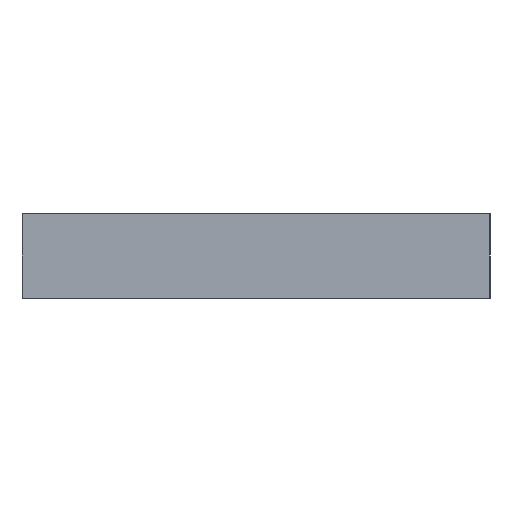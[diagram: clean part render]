
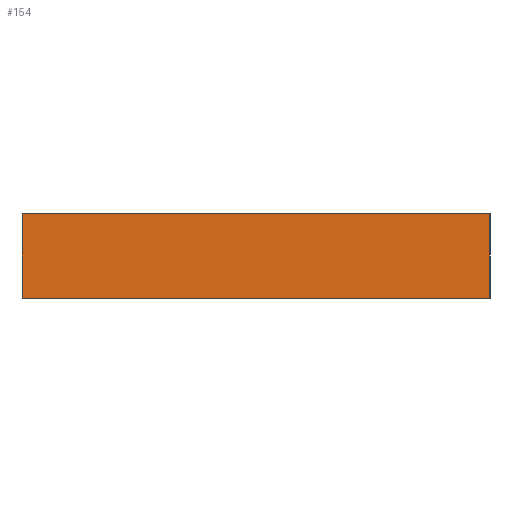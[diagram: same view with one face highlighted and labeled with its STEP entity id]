
A CAD part, left-side view. The second image highlights one B-rep face of the part: STEP entity #154.
In plain terms, the highlighted planar face has unit normal (-1, 0, 0).
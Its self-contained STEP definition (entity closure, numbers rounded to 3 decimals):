
#33 = VECTOR ( 'NONE', #433, 1000. ) ;
#42 = CARTESIAN_POINT ( 'NONE',  ( -928., -50., 0. ) ) ;
#55 = DIRECTION ( 'NONE',  ( 0., 0., -1. ) ) ;
#101 = LINE ( 'NONE', #940, #33 ) ;
#139 = ORIENTED_EDGE ( 'NONE', *, *, #771, .T. ) ;
#154 = ADVANCED_FACE ( 'NONE', ( #366 ), #360, .F. ) ;
#159 = CARTESIAN_POINT ( 'NONE',  ( -928., 50., 18. ) ) ;
#205 = VERTEX_POINT ( 'NONE', #42 ) ;
#218 = DIRECTION ( 'NONE',  ( 0., 0., -1. ) ) ;
#258 = ORIENTED_EDGE ( 'NONE', *, *, #848, .F. ) ;
#303 = AXIS2_PLACEMENT_3D ( 'NONE', #698, #1043, #612 ) ;
#360 = PLANE ( 'NONE',  #303 ) ;
#366 = FACE_OUTER_BOUND ( 'NONE', #826, .T. ) ;
#383 = LINE ( 'NONE', #1058, #762 ) ;
#406 = CARTESIAN_POINT ( 'NONE',  ( -928., 50., 0. ) ) ;
#421 = VERTEX_POINT ( 'NONE', #1012 ) ;
#433 = DIRECTION ( 'NONE',  ( 0., -1., 0. ) ) ;
#434 = VERTEX_POINT ( 'NONE', #159 ) ;
#565 = VECTOR ( 'NONE', #55, 1000. ) ;
#573 = DIRECTION ( 'NONE',  ( 0., -1., 0. ) ) ;
#575 = EDGE_CURVE ( 'NONE', #773, #205, #917, .T. ) ;
#587 = VECTOR ( 'NONE', #573, 1000. ) ;
#592 = ORIENTED_EDGE ( 'NONE', *, *, #1005, .T. ) ;
#612 = DIRECTION ( 'NONE',  ( 0., 0., -1. ) ) ;
#643 = ORIENTED_EDGE ( 'NONE', *, *, #575, .F. ) ;
#698 = CARTESIAN_POINT ( 'NONE',  ( -928., 50., 18. ) ) ;
#762 = VECTOR ( 'NONE', #218, 1000. ) ;
#771 = EDGE_CURVE ( 'NONE', #421, #205, #925, .T. ) ;
#773 = VERTEX_POINT ( 'NONE', #920 ) ;
#826 = EDGE_LOOP ( 'NONE', ( #139, #643, #258, #592 ) ) ;
#848 = EDGE_CURVE ( 'NONE', #434, #773, #101, .T. ) ;
#917 = LINE ( 'NONE', #994, #565 ) ;
#920 = CARTESIAN_POINT ( 'NONE',  ( -928., -50., 18. ) ) ;
#925 = LINE ( 'NONE', #406, #587 ) ;
#940 = CARTESIAN_POINT ( 'NONE',  ( -928., 50., 18. ) ) ;
#994 = CARTESIAN_POINT ( 'NONE',  ( -928., -50., 18. ) ) ;
#1005 = EDGE_CURVE ( 'NONE', #434, #421, #383, .T. ) ;
#1012 = CARTESIAN_POINT ( 'NONE',  ( -928., 50., 0. ) ) ;
#1043 = DIRECTION ( 'NONE',  ( 1., 0., 0. ) ) ;
#1058 = CARTESIAN_POINT ( 'NONE',  ( -928., 50., 18. ) ) ;
